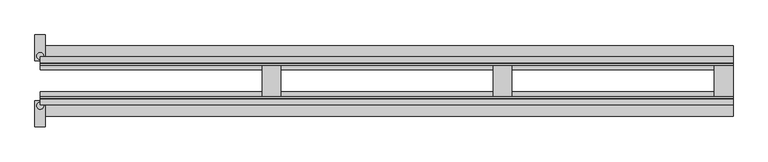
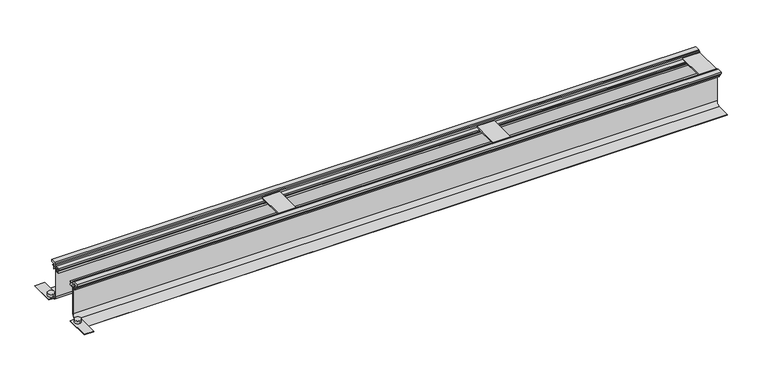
"""IFC4 building model written with IfcOpenShell, lengths in millimetres: proxy geometry, Electrical_Installation_Hager_BKF-Trunking-System-With-Flexible-Screed-Casing-For-Dry-Cleaned-Floors : Nominal Size 150  Length 2.4 m."""

from ifc_helpers import new_model, si_unit, point, frame, frame_2d, origin, place, context, project, spatial, polyline, circle_curve, trimmed, segment, composite_curve, outline, extrude, source, transform, mapped, element, save


def electrical_fixtures_dc279cdf(model_context):
    return source(origin(), model_context, "Body", "SweptSolid", [
        extrude(outline(composite_curve([segment(trimmed(circle_curve(frame_2d((0.0, 86.1652527)), 12.0), [point((0.0, 98.1652527))], [point((0.0, 74.1652527))], False, "CARTESIAN"), True, "CONTINUOUS"), segment(trimmed(circle_curve(frame_2d((0.0, 86.1652527)), 12.0), [point((0.0, 74.1652527))], [point((0.0, 98.1652527))], False, "CARTESIAN"), True, "CONTINUOUS")], self_intersect=False)), frame((0.0, 0.0, -129.7), z_axis=(0.0, 0.0, 1.0), x_axis=(1.0, 0.0, 0.0)), (0.0, 0.0, 1.0), 10.7),
        extrude(outline(composite_curve([segment(trimmed(circle_curve(frame_2d((0.0, -86.112037)), 12.0), [point((0.0, -74.112037))], [point((0.0, -98.112037))], False, "CARTESIAN"), True, "CONTINUOUS"), segment(trimmed(circle_curve(frame_2d((0.0, -86.112037)), 12.0), [point((0.0, -98.112037))], [point((0.0, -74.112037))], False, "CARTESIAN"), True, "CONTINUOUS")], self_intersect=False)), frame((0.0, 0.0, -129.7), z_axis=(0.0, 0.0, 1.0), x_axis=(1.0, 0.0, 0.0)), (0.0, 0.0, 1.0), 10.7),
        extrude(outline(polyline([(18.0, 69.1), (-18.0, 69.1), (-18.0, 159.1), (18.0, 159.1), (18.0, 69.1)])), frame((0.0, 0.0, -131.2), z_axis=(0.0, 0.0, 1.0), x_axis=(1.0, 0.0, 0.0)), (0.0, 0.0, 1.0), 1.5),
        extrude(outline(polyline([(18.0, -159.1), (-18.0, -159.1), (-18.0, -69.1), (18.0, -69.1), (18.0, -159.1)])), frame((0.0, 0.0, -131.2), z_axis=(0.0, 0.0, 1.0), x_axis=(1.0, 0.0, 0.0)), (0.0, 0.0, 1.0), 1.5),
        extrude(outline(polyline([(2400.0, 55.0), (2400.0, -55.0), (2335.0, -55.0), (2335.0, 55.0), (2400.0, 55.0)])), frame((0.0, 0.0, 2.5), z_axis=(0.0, 0.0, 1.0), x_axis=(1.0, 0.0, 0.0)), (0.0, 0.0, 1.0), 4.2),
        extrude(outline(polyline([(1633.5851476, 54.8), (1633.5851476, -54.8), (1568.585332, -54.8), (1568.585332, 54.8), (1633.5851476, 54.8)])), frame((0.0, 0.0, 2.5), z_axis=(0.0, 0.0, 1.0), x_axis=(1.0, 0.0, 0.0)), (0.0, 0.0, 1.0), 4.2),
        extrude(outline(polyline([(833.5851476, 54.8), (833.5851476, -54.8), (768.585332, -54.8), (768.585332, 54.8), (833.5851476, 54.8)])), frame((0.0, 0.0, 2.5), z_axis=(0.0, 0.0, 1.0), x_axis=(1.0, 0.0, 0.0)), (0.0, 0.0, 1.0), 4.2),
        extrude(outline(polyline([(83.0, 6.7), (65.0, 6.7), (65.0, -2.5), (75.475, -2.5), (75.475, -4.0), (69.6, -4.0), (69.6, -14.0), (68.1, -14.0), (68.1, -4.0), (60.1, -4.0), (60.1, -10.1), (48.3, -10.1), (48.3, -14.0), (38.1, -14.0), (38.1, -6.6607064), (41.0, -6.6607064), (41.0, -12.5), (45.7, -12.5), (45.7, 0.5), (41.0, 0.5), (41.0, -2.1), (37.9910979, -2.1), (37.9910979, 2.5), (54.8, 2.5), (54.8, 10.0), (60.0, 10.0), (60.0, -0.5), (63.0, -0.5), (63.0, 13.0), (83.0, 13.0), (83.0, 6.7)])), frame((0.0, 0.0, 0.0), z_axis=(1.0, 0.0, 0.0), x_axis=(0.0, 1.0, 0.0)), (0.0, 0.0, 1.0), 2400.0),
        extrude(outline(polyline([(-83.0, 6.7), (-83.0, 13.0), (-63.0, 13.0), (-63.0, -0.5), (-60.0, -0.5), (-60.0, 10.0), (-54.8, 10.0), (-54.8, 2.5), (-37.9910979, 2.5), (-37.9910979, -2.1), (-41.0, -2.1), (-41.0, 0.5), (-45.7, 0.5), (-45.7, -12.5), (-41.0, -12.5), (-41.0, -6.6607064), (-38.1, -6.6607064), (-38.1, -14.0), (-48.3, -14.0), (-48.3, -10.1), (-60.1, -10.1), (-60.1, -4.0), (-68.1, -4.0), (-68.1, -14.0), (-69.6, -14.0), (-69.6, -4.0), (-75.475, -4.0), (-75.475, -2.5), (-65.0, -2.5), (-65.0, 6.7), (-83.0, 6.7)])), frame((0.0, 0.0, 0.0), z_axis=(1.0, 0.0, 0.0), x_axis=(0.0, 1.0, 0.0)), (0.0, 0.0, 1.0), 2400.0),
        extrude(outline(composite_curve([segment(polyline([(55.1407967, -1.2), (55.9257245, -1.2), (55.9257245, -116.2)]), True, "CONTINUOUS"), segment(trimmed(circle_curve(frame_2d((70.9257245, -116.2)), 15.0), [point((55.9257245, -116.2))], [point((70.9257245, -131.2))], True, "CARTESIAN"), True, "CONTINUOUS"), segment(polyline([(70.9257245, -131.2), (122.2934005, -131.2), (122.2934005, -131.9992624), (70.1407967, -131.9992624)]), True, "CONTINUOUS"), segment(trimmed(circle_curve(frame_2d((70.1407967, -116.9992624)), 15.0), [point((70.1407967, -131.9992624))], [point((55.1407967, -116.9992624))], False, "CARTESIAN"), True, "CONTINUOUS"), segment(polyline([(55.1407967, -116.9992624), (55.1407967, -1.2)]), True, "CONTINUOUS")], self_intersect=False)), frame((0.0, 0.0, 0.0), z_axis=(1.0, 0.0, 0.0), x_axis=(0.0, 1.0, 0.0)), (0.0, 0.0, 1.0), 2400.0),
        extrude(outline(composite_curve([segment(polyline([(-55.1407967, -1.2), (-55.1407967, -116.9992624)]), True, "CONTINUOUS"), segment(trimmed(circle_curve(frame_2d((-70.1407967, -116.9992624)), 15.0), [point((-55.1407967, -116.9992624))], [point((-70.1407967, -131.9992624))], False, "CARTESIAN"), True, "CONTINUOUS"), segment(polyline([(-70.1407967, -131.9992624), (-122.2934005, -131.9992624), (-122.2934005, -131.2), (-70.9257245, -131.2)]), True, "CONTINUOUS"), segment(trimmed(circle_curve(frame_2d((-70.9257245, -116.2)), 15.0), [point((-70.9257245, -131.2))], [point((-55.9257245, -116.2))], True, "CARTESIAN"), True, "CONTINUOUS"), segment(polyline([(-55.9257245, -116.2), (-55.9257245, -1.2), (-55.1407967, -1.2)]), True, "CONTINUOUS")], self_intersect=False)), frame((0.0, 0.0, 0.0), z_axis=(1.0, 0.0, 0.0), x_axis=(0.0, 1.0, 0.0)), (0.0, 0.0, 1.0), 2400.0),
    ])


if __name__ == "__main__":
    model = new_model("IFC4")
    model_context = context("Model", 3, world=origin())
    ifc_project = project(units=[si_unit("LENGTHUNIT", "METRE", prefix="MILLI")], contexts=[model_context])
    site = spatial("IfcSite", under=ifc_project)
    building = spatial("IfcBuilding", under=site)
    placement = place(None, origin())
    electrical_fixtures_shape = electrical_fixtures_dc279cdf(model_context)
    element("IfcBuildingElementProxy", 1, Name="Electrical_Installation_Hager_BKF-Trunking-System-With-Flexible-Screed-Casing-For-Dry-Cleaned-Floors : Nominal Size 150  Length 2.4 m", ObjectType="Electrical_Installation_Hager_BKF-Trunking-System-With-Flexible-Screed-Casing-For-Dry-Cleaned-Floors : Nominal Size 150  Length 2.4 m", at=placement, inside=building, context=model_context, shape_type="MappedRepresentation", body=[
        mapped(electrical_fixtures_shape, transform((0.0, 0.0, 0.0), x_axis=(1.0, 0.0, 0.0), y_axis=(0.0, 1.0, 0.0), z_axis=(0.0, 0.0, 1.0))),
    ])
    save(model, "model.ifc")
